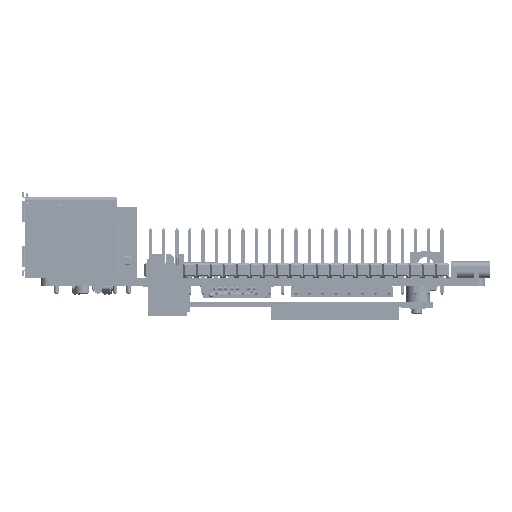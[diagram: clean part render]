
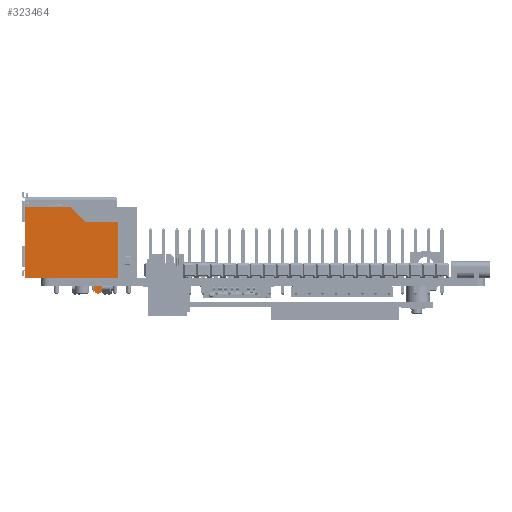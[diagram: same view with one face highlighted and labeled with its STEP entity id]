
A CAD part, front view. The second image highlights one B-rep face of the part: STEP entity #323464.
In plain terms, the highlighted planar face has unit normal (0, -1, 0) as drawn and (1, 0, 0) by its records, which use the part's own axes.
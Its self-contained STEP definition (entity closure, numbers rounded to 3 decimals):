
#5607 = DIRECTION ( 'NONE',  ( 0., 0., -1. ) ) ;
#11078 = AXIS2_PLACEMENT_3D ( 'NONE', #260059, #435984, #119567 ) ;
#14370 = CARTESIAN_POINT ( 'NONE',  ( 15.88, -2.72, -17.748 ) ) ;
#14528 = CARTESIAN_POINT ( 'NONE',  ( 15.88, -15.75, -14.72 ) ) ;
#15424 = EDGE_CURVE ( 'NONE', #350807, #447647, #221352, .T. ) ;
#18715 = VECTOR ( 'NONE', #73887, 1000. ) ;
#18735 = LINE ( 'NONE', #187907, #187006 ) ;
#26840 = EDGE_CURVE ( 'NONE', #358172, #92517, #106719, .T. ) ;
#42665 = DIRECTION ( 'NONE',  ( 0., -1., 0. ) ) ;
#46811 = FACE_OUTER_BOUND ( 'NONE', #118236, .T. ) ;
#48420 = VERTEX_POINT ( 'NONE', #63027 ) ;
#53464 = VERTEX_POINT ( 'NONE', #445141 ) ;
#56385 = VERTEX_POINT ( 'NONE', #158552 ) ;
#57638 = EDGE_CURVE ( 'NONE', #270476, #56385, #188147, .T. ) ;
#60262 = CIRCLE ( 'NONE', #404660, 0.75 ) ;
#63027 = CARTESIAN_POINT ( 'NONE',  ( 15.88, -13.5, -17.748 ) ) ;
#66858 = LINE ( 'NONE', #99744, #372127 ) ;
#68041 = DIRECTION ( 'NONE',  ( 1., 0., 0. ) ) ;
#71484 = DIRECTION ( 'NONE',  ( 0., 0., -1. ) ) ;
#73887 = DIRECTION ( 'NONE',  ( 0., -0.701, -0.713 ) ) ;
#91186 = ORIENTED_EDGE ( 'NONE', *, *, #26840, .F. ) ;
#92517 = VERTEX_POINT ( 'NONE', #14370 ) ;
#97262 = ORIENTED_EDGE ( 'NONE', *, *, #452950, .T. ) ;
#99744 = CARTESIAN_POINT ( 'NONE',  ( 15.88, -13.5, 0. ) ) ;
#106719 = LINE ( 'NONE', #390325, #368627 ) ;
#118236 = EDGE_LOOP ( 'NONE', ( #419242, #203861, #91186, #267439, #217917, #190654, #311973, #139101, #448349, #97262 ) ) ;
#119567 = DIRECTION ( 'NONE',  ( 0., 0., -1. ) ) ;
#133490 = EDGE_CURVE ( 'NONE', #56385, #457526, #60262, .T. ) ;
#136158 = VECTOR ( 'NONE', #419916, 1000. ) ;
#136382 = LINE ( 'NONE', #276794, #136158 ) ;
#139101 = ORIENTED_EDGE ( 'NONE', *, *, #57638, .T. ) ;
#140474 = LINE ( 'NONE', #283238, #451369 ) ;
#140906 = DIRECTION ( 'NONE',  ( 0., 1., 0. ) ) ;
#150139 = PLANE ( 'NONE',  #11078 ) ;
#158552 = CARTESIAN_POINT ( 'NONE',  ( 15.88, -15.75, -13.22 ) ) ;
#161947 = DIRECTION ( 'NONE',  ( 0., 1., 0. ) ) ;
#171328 = DIRECTION ( 'NONE',  ( 0., 0., -1. ) ) ;
#175727 = VECTOR ( 'NONE', #140906, 1000. ) ;
#181832 = EDGE_CURVE ( 'NONE', #48420, #92517, #319037, .T. ) ;
#187006 = VECTOR ( 'NONE', #161947, 1000. ) ;
#187907 = CARTESIAN_POINT ( 'NONE',  ( 15.88, -13.5, 0. ) ) ;
#188147 = LINE ( 'NONE', #396746, #363743 ) ;
#190654 = ORIENTED_EDGE ( 'NONE', *, *, #216748, .F. ) ;
#191436 = CARTESIAN_POINT ( 'NONE',  ( 15.88, 0., -8.763 ) ) ;
#203861 = ORIENTED_EDGE ( 'NONE', *, *, #181832, .T. ) ;
#216748 = EDGE_CURVE ( 'NONE', #53464, #350807, #18735, .T. ) ;
#217917 = ORIENTED_EDGE ( 'NONE', *, *, #15424, .F. ) ;
#221352 = LINE ( 'NONE', #362044, #275636 ) ;
#223753 = CARTESIAN_POINT ( 'NONE',  ( 15.88, -2.257, -11.058 ) ) ;
#260059 = CARTESIAN_POINT ( 'NONE',  ( 15.88, -13.5, 0. ) ) ;
#267439 = ORIENTED_EDGE ( 'NONE', *, *, #388094, .F. ) ;
#270476 = VERTEX_POINT ( 'NONE', #375900 ) ;
#273872 = CARTESIAN_POINT ( 'NONE',  ( 15.88, -2.72, -11.529 ) ) ;
#275636 = VECTOR ( 'NONE', #5607, 1000. ) ;
#276794 = CARTESIAN_POINT ( 'NONE',  ( 15.88, -13.5, 0. ) ) ;
#283238 = CARTESIAN_POINT ( 'NONE',  ( 15.88, -15.75, -14.72 ) ) ;
#288338 = CARTESIAN_POINT ( 'NONE',  ( 15.88, 0., 0. ) ) ;
#311973 = ORIENTED_EDGE ( 'NONE', *, *, #447908, .T. ) ;
#319037 = LINE ( 'NONE', #461953, #175727 ) ;
#323464 = ADVANCED_FACE ( 'NONE', ( #46811 ), #150139, .T. ) ;
#350807 = VERTEX_POINT ( 'NONE', #288338 ) ;
#358172 = VERTEX_POINT ( 'NONE', #273872 ) ;
#362044 = CARTESIAN_POINT ( 'NONE',  ( 15.88, 0., 0. ) ) ;
#363743 = VECTOR ( 'NONE', #42665, 1000. ) ;
#368627 = VECTOR ( 'NONE', #425460, 1000. ) ;
#372127 = VECTOR ( 'NONE', #71484, 1000. ) ;
#375900 = CARTESIAN_POINT ( 'NONE',  ( 15.88, -13.5, -13.22 ) ) ;
#386836 = CARTESIAN_POINT ( 'NONE',  ( 15.88, -15.75, -13.97 ) ) ;
#388094 = EDGE_CURVE ( 'NONE', #447647, #358172, #394984, .T. ) ;
#390325 = CARTESIAN_POINT ( 'NONE',  ( 15.88, -2.72, 0. ) ) ;
#394984 = LINE ( 'NONE', #223753, #18715 ) ;
#396746 = CARTESIAN_POINT ( 'NONE',  ( 15.88, -13.5, -13.22 ) ) ;
#404660 = AXIS2_PLACEMENT_3D ( 'NONE', #386836, #68041, #171328 ) ;
#419242 = ORIENTED_EDGE ( 'NONE', *, *, #463819, .T. ) ;
#419916 = DIRECTION ( 'NONE',  ( 0., 0., -1. ) ) ;
#421411 = CARTESIAN_POINT ( 'NONE',  ( 15.88, -13.5, -14.72 ) ) ;
#425460 = DIRECTION ( 'NONE',  ( 0., 0., -1. ) ) ;
#426336 = DIRECTION ( 'NONE',  ( 0., 1., 0. ) ) ;
#435984 = DIRECTION ( 'NONE',  ( 1., 0., 0. ) ) ;
#437146 = VERTEX_POINT ( 'NONE', #421411 ) ;
#445141 = CARTESIAN_POINT ( 'NONE',  ( 15.88, -13.5, 0. ) ) ;
#447647 = VERTEX_POINT ( 'NONE', #191436 ) ;
#447908 = EDGE_CURVE ( 'NONE', #53464, #270476, #66858, .T. ) ;
#448349 = ORIENTED_EDGE ( 'NONE', *, *, #133490, .T. ) ;
#451369 = VECTOR ( 'NONE', #426336, 1000. ) ;
#452950 = EDGE_CURVE ( 'NONE', #457526, #437146, #140474, .T. ) ;
#457526 = VERTEX_POINT ( 'NONE', #14528 ) ;
#461953 = CARTESIAN_POINT ( 'NONE',  ( 15.88, -2.72, -17.748 ) ) ;
#463819 = EDGE_CURVE ( 'NONE', #437146, #48420, #136382, .T. ) ;
